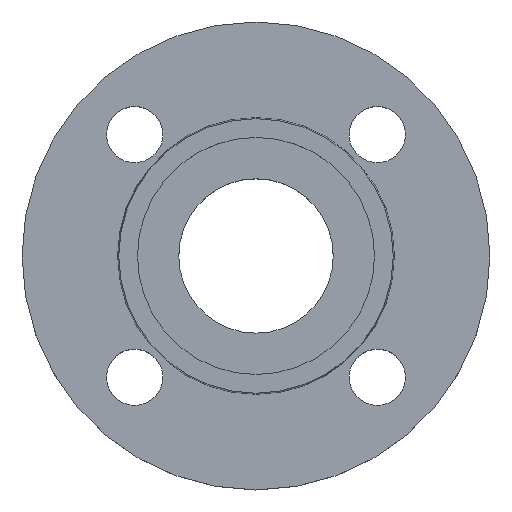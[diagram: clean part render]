
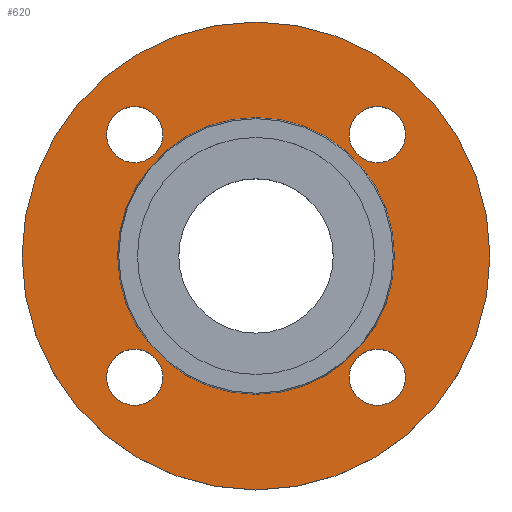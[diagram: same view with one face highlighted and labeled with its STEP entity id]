
A CAD part, top view. The second image highlights one B-rep face of the part: STEP entity #620.
In plain terms, the highlighted planar face has unit normal (0, 0, 1).
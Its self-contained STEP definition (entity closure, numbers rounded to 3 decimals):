
#9 = CIRCLE ( 'NONE', #94, 9. ) ;
#23 = EDGE_CURVE ( 'NONE', #511, #690, #520, .T. ) ;
#26 = EDGE_CURVE ( 'NONE', #698, #650, #249, .T. ) ;
#65 = DIRECTION ( 'NONE',  ( 1., 0., 0. ) ) ;
#66 = DIRECTION ( 'NONE',  ( 0., 0., -1. ) ) ;
#67 = CARTESIAN_POINT ( 'NONE',  ( 38.891, -38.891, -2. ) ) ;
#68 = DIRECTION ( 'NONE',  ( 1., 0., 0. ) ) ;
#69 = DIRECTION ( 'NONE',  ( 0., 0., -1. ) ) ;
#70 = CARTESIAN_POINT ( 'NONE',  ( 38.891, -38.891, -2. ) ) ;
#90 = AXIS2_PLACEMENT_3D ( 'NONE', #106, #104, #103 ) ;
#94 = AXIS2_PLACEMENT_3D ( 'NONE', #147, #144, #143 ) ;
#102 = EDGE_CURVE ( 'NONE', #517, #697, #173, .T. ) ;
#103 = DIRECTION ( 'NONE',  ( 1., 0., 0. ) ) ;
#104 = DIRECTION ( 'NONE',  ( 0., 0., -1. ) ) ;
#106 = CARTESIAN_POINT ( 'NONE',  ( 38.891, 38.891, -2. ) ) ;
#122 = CIRCLE ( 'NONE', #462, 9. ) ;
#127 = CARTESIAN_POINT ( 'NONE',  ( -44.353, 0., -2. ) ) ;
#134 = CARTESIAN_POINT ( 'NONE',  ( 29.891, 38.891, -2. ) ) ;
#136 = AXIS2_PLACEMENT_3D ( 'NONE', #242, #190, #189 ) ;
#137 = CARTESIAN_POINT ( 'NONE',  ( -47.891, -38.891, -2. ) ) ;
#142 = CARTESIAN_POINT ( 'NONE',  ( 75., 0., -2. ) ) ;
#143 = DIRECTION ( 'NONE',  ( 1., 0., 0. ) ) ;
#144 = DIRECTION ( 'NONE',  ( 0., 0., -1. ) ) ;
#147 = CARTESIAN_POINT ( 'NONE',  ( -38.891, -38.891, -2. ) ) ;
#161 = CARTESIAN_POINT ( 'NONE',  ( 47.891, 38.891, -2. ) ) ;
#168 = CARTESIAN_POINT ( 'NONE',  ( -75., 0., -2. ) ) ;
#172 = CARTESIAN_POINT ( 'NONE',  ( 0., 0., -2. ) ) ;
#173 = CIRCLE ( 'NONE', #358, 9. ) ;
#181 = CIRCLE ( 'NONE', #567, 9. ) ;
#183 = AXIS2_PLACEMENT_3D ( 'NONE', #172, #200, #283 ) ;
#187 = CARTESIAN_POINT ( 'NONE',  ( 47.891, -38.891, -2. ) ) ;
#189 = DIRECTION ( 'NONE',  ( -1., 0., 0. ) ) ;
#190 = DIRECTION ( 'NONE',  ( 0., 0., -1. ) ) ;
#200 = DIRECTION ( 'NONE',  ( 0., 0., -1. ) ) ;
#202 = CARTESIAN_POINT ( 'NONE',  ( -47.891, 38.891, -2. ) ) ;
#204 = AXIS2_PLACEMENT_3D ( 'NONE', #730, #731, #732 ) ;
#207 = CARTESIAN_POINT ( 'NONE',  ( -29.891, -38.891, -2. ) ) ;
#208 = CIRCLE ( 'NONE', #418, 9. ) ;
#226 = FACE_BOUND ( 'NONE', #509, .T. ) ;
#228 = FACE_BOUND ( 'NONE', #497, .T. ) ;
#242 = CARTESIAN_POINT ( 'NONE',  ( 0., 0., -2. ) ) ;
#249 = CIRCLE ( 'NONE', #341, 9. ) ;
#257 = DIRECTION ( 'NONE',  ( 0., 0., -1. ) ) ;
#258 = DIRECTION ( 'NONE',  ( 1., 0., 0. ) ) ;
#263 = CARTESIAN_POINT ( 'NONE',  ( -38.891, 38.891, -2. ) ) ;
#271 = CARTESIAN_POINT ( 'NONE',  ( 44.353, 0., -2. ) ) ;
#272 = FACE_BOUND ( 'NONE', #495, .T. ) ;
#273 = EDGE_CURVE ( 'NONE', #515, #487, #801, .T. ) ;
#274 = FACE_OUTER_BOUND ( 'NONE', #488, .T. ) ;
#275 = PLANE ( 'NONE',  #463 ) ;
#276 = FACE_BOUND ( 'NONE', #478, .T. ) ;
#278 = CARTESIAN_POINT ( 'NONE',  ( 44.353, 0., -2. ) ) ;
#281 = DIRECTION ( 'NONE',  ( 1., 0., 0. ) ) ;
#283 = DIRECTION ( 'NONE',  ( -1., 0., 0. ) ) ;
#292 = CIRCLE ( 'NONE', #761, 44.353 ) ;
#299 = DIRECTION ( 'NONE',  ( 0., 0., 1. ) ) ;
#315 = FACE_BOUND ( 'NONE', #494, .T. ) ;
#316 = CIRCLE ( 'NONE', #90, 9. ) ;
#318 = CARTESIAN_POINT ( 'NONE',  ( -38.891, 38.891, -2. ) ) ;
#319 = DIRECTION ( 'NONE',  ( 0., 0., -1. ) ) ;
#320 = DIRECTION ( 'NONE',  ( 1., 0., 0. ) ) ;
#341 = AXIS2_PLACEMENT_3D ( 'NONE', #737, #738, #739 ) ;
#358 = AXIS2_PLACEMENT_3D ( 'NONE', #769, #770, #771 ) ;
#399 = AXIS2_PLACEMENT_3D ( 'NONE', #318, #319, #320 ) ;
#418 = AXIS2_PLACEMENT_3D ( 'NONE', #70, #69, #68 ) ;
#420 = CARTESIAN_POINT ( 'NONE',  ( 29.891, -38.891, -2. ) ) ;
#447 = CARTESIAN_POINT ( 'NONE',  ( -29.891, 38.891, -2. ) ) ;
#456 = CARTESIAN_POINT ( 'NONE',  ( 0., 0., -2. ) ) ;
#457 = DIRECTION ( 'NONE',  ( 0., 0., -1. ) ) ;
#459 = DIRECTION ( 'NONE',  ( -1., 0., 0. ) ) ;
#462 = AXIS2_PLACEMENT_3D ( 'NONE', #263, #257, #258 ) ;
#463 = AXIS2_PLACEMENT_3D ( 'NONE', #278, #299, #281 ) ;
#476 = EDGE_CURVE ( 'NONE', #703, #508, #292, .T. ) ;
#478 = EDGE_LOOP ( 'NONE', ( #598, #601 ) ) ;
#481 = VERTEX_POINT ( 'NONE', #420 ) ;
#487 = VERTEX_POINT ( 'NONE', #447 ) ;
#488 = EDGE_LOOP ( 'NONE', ( #607, #608 ) ) ;
#494 = EDGE_LOOP ( 'NONE', ( #602, #604 ) ) ;
#495 = EDGE_LOOP ( 'NONE', ( #605, #606 ) ) ;
#497 = EDGE_LOOP ( 'NONE', ( #594, #595 ) ) ;
#508 = VERTEX_POINT ( 'NONE', #271 ) ;
#509 = EDGE_LOOP ( 'NONE', ( #590, #592 ) ) ;
#511 = VERTEX_POINT ( 'NONE', #168 ) ;
#514 = EDGE_CURVE ( 'NONE', #690, #511, #785, .T. ) ;
#515 = VERTEX_POINT ( 'NONE', #202 ) ;
#517 = VERTEX_POINT ( 'NONE', #207 ) ;
#520 = CIRCLE ( 'NONE', #204, 75. ) ;
#535 = VERTEX_POINT ( 'NONE', #187 ) ;
#567 = AXIS2_PLACEMENT_3D ( 'NONE', #67, #66, #65 ) ;
#582 = EDGE_CURVE ( 'NONE', #487, #515, #122, .T. ) ;
#590 = ORIENTED_EDGE ( 'NONE', *, *, #790, .T. ) ;
#592 = ORIENTED_EDGE ( 'NONE', *, *, #792, .T. ) ;
#594 = ORIENTED_EDGE ( 'NONE', *, *, #102, .T. ) ;
#595 = ORIENTED_EDGE ( 'NONE', *, *, #683, .T. ) ;
#598 = ORIENTED_EDGE ( 'NONE', *, *, #582, .T. ) ;
#601 = ORIENTED_EDGE ( 'NONE', *, *, #273, .T. ) ;
#602 = ORIENTED_EDGE ( 'NONE', *, *, #743, .T. ) ;
#604 = ORIENTED_EDGE ( 'NONE', *, *, #26, .T. ) ;
#605 = ORIENTED_EDGE ( 'NONE', *, *, #476, .T. ) ;
#606 = ORIENTED_EDGE ( 'NONE', *, *, #622, .T. ) ;
#607 = ORIENTED_EDGE ( 'NONE', *, *, #514, .F. ) ;
#608 = ORIENTED_EDGE ( 'NONE', *, *, #23, .F. ) ;
#620 = ADVANCED_FACE ( 'NONE', ( #226, #228, #276, #315, #272, #274 ), #275, .T. ) ;
#622 = EDGE_CURVE ( 'NONE', #508, #703, #696, .T. ) ;
#650 = VERTEX_POINT ( 'NONE', #161 ) ;
#683 = EDGE_CURVE ( 'NONE', #697, #517, #9, .T. ) ;
#690 = VERTEX_POINT ( 'NONE', #142 ) ;
#696 = CIRCLE ( 'NONE', #136, 44.353 ) ;
#697 = VERTEX_POINT ( 'NONE', #137 ) ;
#698 = VERTEX_POINT ( 'NONE', #134 ) ;
#703 = VERTEX_POINT ( 'NONE', #127 ) ;
#730 = CARTESIAN_POINT ( 'NONE',  ( 0., 0., -2. ) ) ;
#731 = DIRECTION ( 'NONE',  ( 0., 0., -1. ) ) ;
#732 = DIRECTION ( 'NONE',  ( -1., 0., 0. ) ) ;
#737 = CARTESIAN_POINT ( 'NONE',  ( 38.891, 38.891, -2. ) ) ;
#738 = DIRECTION ( 'NONE',  ( 0., 0., -1. ) ) ;
#739 = DIRECTION ( 'NONE',  ( 1., 0., 0. ) ) ;
#743 = EDGE_CURVE ( 'NONE', #650, #698, #316, .T. ) ;
#761 = AXIS2_PLACEMENT_3D ( 'NONE', #456, #457, #459 ) ;
#769 = CARTESIAN_POINT ( 'NONE',  ( -38.891, -38.891, -2. ) ) ;
#770 = DIRECTION ( 'NONE',  ( 0., 0., -1. ) ) ;
#771 = DIRECTION ( 'NONE',  ( 1., 0., 0. ) ) ;
#785 = CIRCLE ( 'NONE', #183, 75. ) ;
#790 = EDGE_CURVE ( 'NONE', #535, #481, #208, .T. ) ;
#792 = EDGE_CURVE ( 'NONE', #481, #535, #181, .T. ) ;
#801 = CIRCLE ( 'NONE', #399, 9. ) ;
